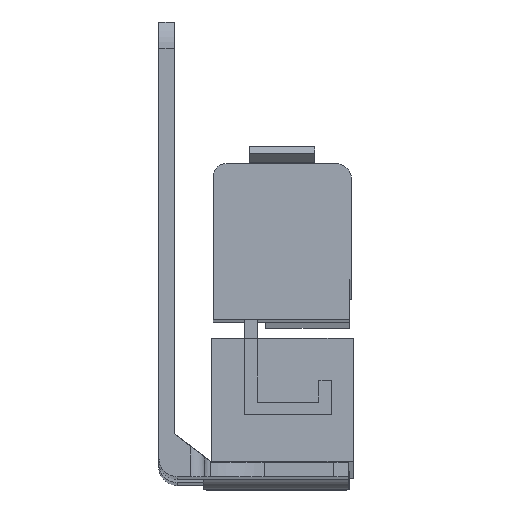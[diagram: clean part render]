
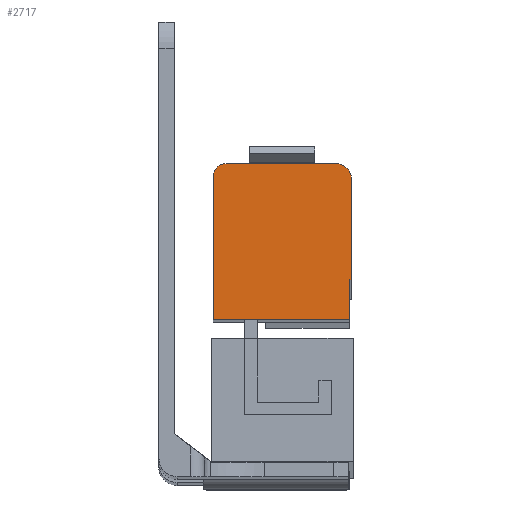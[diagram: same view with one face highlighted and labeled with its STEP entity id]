
A CAD part, front view. The second image highlights one B-rep face of the part: STEP entity #2717.
In plain terms, the highlighted planar face has unit normal (0, -1, 0.007).
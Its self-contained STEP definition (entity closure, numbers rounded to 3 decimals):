
#300 = ORIENTED_EDGE ( 'NONE', *, *, #2034, .T. ) ;
#301 = ORIENTED_EDGE ( 'NONE', *, *, #2037, .T. ) ;
#302 = ORIENTED_EDGE ( 'NONE', *, *, #2041, .T. ) ;
#303 = ORIENTED_EDGE ( 'NONE', *, *, #2044, .T. ) ;
#304 = ORIENTED_EDGE ( 'NONE', *, *, #2048, .T. ) ;
#305 = ORIENTED_EDGE ( 'NONE', *, *, #2052, .T. ) ;
#306 = ORIENTED_EDGE ( 'NONE', *, *, #2053, .T. ) ;
#307 = ORIENTED_EDGE ( 'NONE', *, *, #2049, .T. ) ;
#883 = VERTEX_POINT ( 'NONE', #1139 ) ;
#930 = VERTEX_POINT ( 'NONE', #1186 ) ;
#942 = VERTEX_POINT ( 'NONE', #1198 ) ;
#945 = VERTEX_POINT ( 'NONE', #1201 ) ;
#953 = VERTEX_POINT ( 'NONE', #1209 ) ;
#962 = VERTEX_POINT ( 'NONE', #1218 ) ;
#963 = VERTEX_POINT ( 'NONE', #1219 ) ;
#977 = VERTEX_POINT ( 'NONE', #1233 ) ;
#1139 = CARTESIAN_POINT ( 'NONE',  ( 7.5, -21.644, -6.303 ) ) ;
#1186 = CARTESIAN_POINT ( 'NONE',  ( 24.45, -21.632, -4.553 ) ) ;
#1198 = CARTESIAN_POINT ( 'NONE',  ( 26.5, -21.646, -6.603 ) ) ;
#1201 = CARTESIAN_POINT ( 'NONE',  ( 26.5, -21.744, -20.552 ) ) ;
#1209 = CARTESIAN_POINT ( 'NONE',  ( 9.25, -21.632, -4.553 ) ) ;
#1218 = CARTESIAN_POINT ( 'NONE',  ( 26.25, -21.744, -20.552 ) ) ;
#1219 = CARTESIAN_POINT ( 'NONE',  ( 26.25, -21.782, -26.052 ) ) ;
#1233 = CARTESIAN_POINT ( 'NONE',  ( 7.5, -21.782, -26.052 ) ) ;
#1603 = CARTESIAN_POINT ( 'NONE',  ( 26.5, -21.646, -6.603 ) ) ;
#1604 = DIRECTION ( 'NONE',  ( 0., 0.007, 1. ) ) ;
#1609 = CARTESIAN_POINT ( 'NONE',  ( 24.45, -21.646, -6.603 ) ) ;
#1610 = DIRECTION ( 'NONE',  ( 0., -1., 0.007 ) ) ;
#1611 = DIRECTION ( 'NONE',  ( 0., 0.007, 1. ) ) ;
#1618 = CARTESIAN_POINT ( 'NONE',  ( 9.25, -21.632, -4.553 ) ) ;
#1619 = DIRECTION ( 'NONE',  ( -1., 0., 0. ) ) ;
#1624 = CARTESIAN_POINT ( 'NONE',  ( 9.25, -21.644, -6.303 ) ) ;
#1625 = DIRECTION ( 'NONE',  ( 0., -1., 0.007 ) ) ;
#1626 = DIRECTION ( 'NONE',  ( 0., -0.007, -1. ) ) ;
#1633 = CARTESIAN_POINT ( 'NONE',  ( 7.5, -21.644, -6.303 ) ) ;
#1634 = DIRECTION ( 'NONE',  ( 0., -0.007, -1. ) ) ;
#1635 = CARTESIAN_POINT ( 'NONE',  ( 7.5, -21.744, -20.552 ) ) ;
#1636 = DIRECTION ( 'NONE',  ( 1., 0., 0. ) ) ;
#1641 = CARTESIAN_POINT ( 'NONE',  ( 26.25, -21.782, -26.052 ) ) ;
#1642 = DIRECTION ( 'NONE',  ( 1., 0., 0. ) ) ;
#1643 = CARTESIAN_POINT ( 'NONE',  ( 26.25, -21.782, -26.052 ) ) ;
#1644 = DIRECTION ( 'NONE',  ( 0., 0.007, 1. ) ) ;
#2034 = EDGE_CURVE ( 'NONE', #945, #942, #3115, .T. ) ;
#2037 = EDGE_CURVE ( 'NONE', #942, #930, #3122, .T. ) ;
#2041 = EDGE_CURVE ( 'NONE', #930, #953, #3128, .T. ) ;
#2044 = EDGE_CURVE ( 'NONE', #953, #883, #3135, .T. ) ;
#2048 = EDGE_CURVE ( 'NONE', #883, #977, #3141, .T. ) ;
#2049 = EDGE_CURVE ( 'NONE', #962, #945, #3143, .T. ) ;
#2052 = EDGE_CURVE ( 'NONE', #977, #963, #3149, .T. ) ;
#2053 = EDGE_CURVE ( 'NONE', #963, #962, #3151, .T. ) ;
#2333 = AXIS2_PLACEMENT_3D ( 'NONE', #1609, #1610, #1611 ) ;
#2334 = AXIS2_PLACEMENT_3D ( 'NONE', #1624, #1625, #1626 ) ;
#2555 = AXIS2_PLACEMENT_3D ( 'NONE', #4626, #4627, #4628 ) ;
#2717 = ADVANCED_FACE ( 'NONE', ( #3794 ), #4625, .T. ) ;
#2775 = EDGE_LOOP ( 'NONE', ( #300, #301, #302, #303, #304, #305, #306, #307 ) ) ;
#3115 = LINE ( 'NONE', #1603, #3116 ) ;
#3116 = VECTOR ( 'NONE', #1604, 1000. ) ;
#3122 = CIRCLE ( 'NONE', #2333, 2.05 ) ;
#3128 = LINE ( 'NONE', #1618, #3129 ) ;
#3129 = VECTOR ( 'NONE', #1619, 1000. ) ;
#3135 = CIRCLE ( 'NONE', #2334, 1.75 ) ;
#3141 = LINE ( 'NONE', #1633, #3142 ) ;
#3142 = VECTOR ( 'NONE', #1634, 1000. ) ;
#3143 = LINE ( 'NONE', #1635, #3144 ) ;
#3144 = VECTOR ( 'NONE', #1636, 1000. ) ;
#3149 = LINE ( 'NONE', #1641, #3150 ) ;
#3150 = VECTOR ( 'NONE', #1642, 1000. ) ;
#3151 = LINE ( 'NONE', #1643, #3152 ) ;
#3152 = VECTOR ( 'NONE', #1644, 1000. ) ;
#3794 = FACE_OUTER_BOUND ( 'NONE', #2775, .T. ) ;
#4625 = PLANE ( 'NONE',  #2555 ) ;
#4626 = CARTESIAN_POINT ( 'NONE',  ( 9.25, -21.644, -6.303 ) ) ;
#4627 = DIRECTION ( 'NONE',  ( 0., -1., 0.007 ) ) ;
#4628 = DIRECTION ( 'NONE',  ( 0., -0.007, -1. ) ) ;
